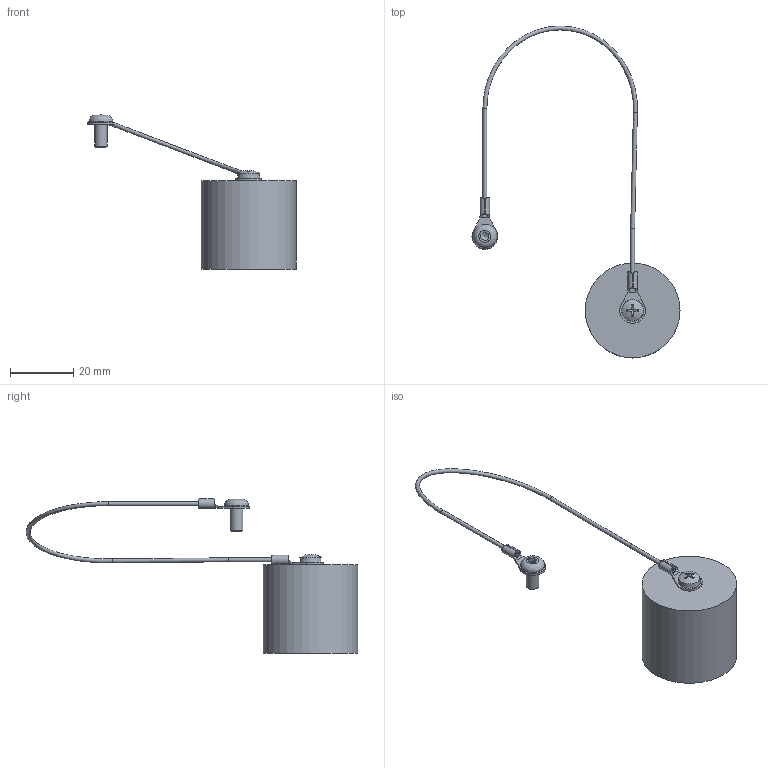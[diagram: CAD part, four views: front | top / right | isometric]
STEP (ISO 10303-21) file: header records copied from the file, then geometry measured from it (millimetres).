
FILE_DESCRIPTION(/* description */ (''),/* implementation_level */ '2;1');
FILE_NAME(/* name */ 'C:\Local Work Area\Progetti\AP\CALIBRI\16.50.stp',/* time_stamp */ '2015-05-14T11:44:28+02:00',/* author */ ('APto/vg'),/* organization */ (''),/* preprocessor_version */ 'ST-DEVELOPER v15.2',/* originating_system */ 'Autodesk Inventor 2014',/* authorisation */ '');
FILE_SCHEMA (('AUTOMOTIVE_DESIGN { 1 0 10303 214 3 1 1 }'));
Length unit declared in the file: millimetre
Products named in the file (7): 16.51; VITE UNBRAKO TC BOMBATA ISO 7380 M004X008; TERMINALE D4; CORDINO; 16.50_CORDINO; UNI 6954 - ST3,5 x  9,5 - C - H; 16.50
Bounding box: 65.83 x 104.96 x 48.75 mm (x, y, z)
Volume: 14122.6 mm3; surface area: 6903.7 mm2
Topology: 6 solids, 6 shells, 98 faces, 235 edges, 151 vertices
Faces by surface type: plane 37, cylinder 24, bspline 17, cone 13, torus 6, sphere 1
Full cylindrical faces by diameter (mm): 1.25 x2, 2.4 x1, 3.5 x1, 4 x1, 4.394 x2, 7.6 x1, 20 x1, 30 x1
Entity records: 2602 total; most frequent: CARTESIAN_POINT 866, DIRECTION 324, ORIENTED_EDGE 316, EDGE_CURVE 158, AXIS2_PLACEMENT_3D 137, VERTEX_POINT 111, EDGE_LOOP 97, ADVANCED_FACE 75
